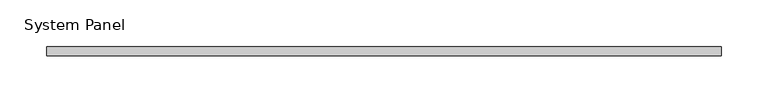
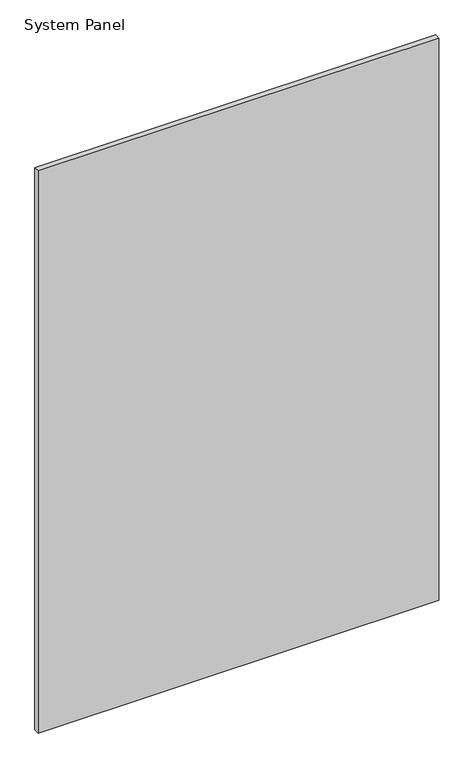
"""IFC4 building model written with IfcOpenShell, lengths in millimetres: plate geometry, System Panel : стекло_смещение_20."""

from ifc_helpers import new_model, si_unit, origin, origin_with_axes, place, context, project, spatial, polyline, outline, extrude, source, transform, mapped, element, save


def system_panel_1075ce22(model_context):
    return source(origin(), model_context, "Body", "SweptSolid", [
        extrude(outline(polyline([(362.5, 15.0), (-362.5, 15.0), (-362.5, 25.0), (362.5, 25.0), (362.5, 15.0)])), origin_with_axes(), (0.0, 0.0, 1.0), 1075.0),
    ])


if __name__ == "__main__":
    model = new_model("IFC4")
    model_context = context("Model", 3, world=origin())
    ifc_project = project(units=[si_unit("LENGTHUNIT", "METRE", prefix="MILLI")], contexts=[model_context])
    site = spatial("IfcSite", under=ifc_project)
    building = spatial("IfcBuilding", under=site)
    placement = place(None, origin())
    system_panel_shape = system_panel_1075ce22(model_context)
    element("IfcPlate", 1, ObjectType="System Panel : стекло_смещение_20", at=placement, inside=building, context=model_context, shape_type="MappedRepresentation", body=[
        mapped(system_panel_shape, transform((0.0, 0.0, 0.0), x_axis=(1.0, 0.0, 0.0), y_axis=(0.0, 1.0, 0.0), z_axis=(0.0, 0.0, 1.0))),
    ])
    save(model, "model.ifc")
